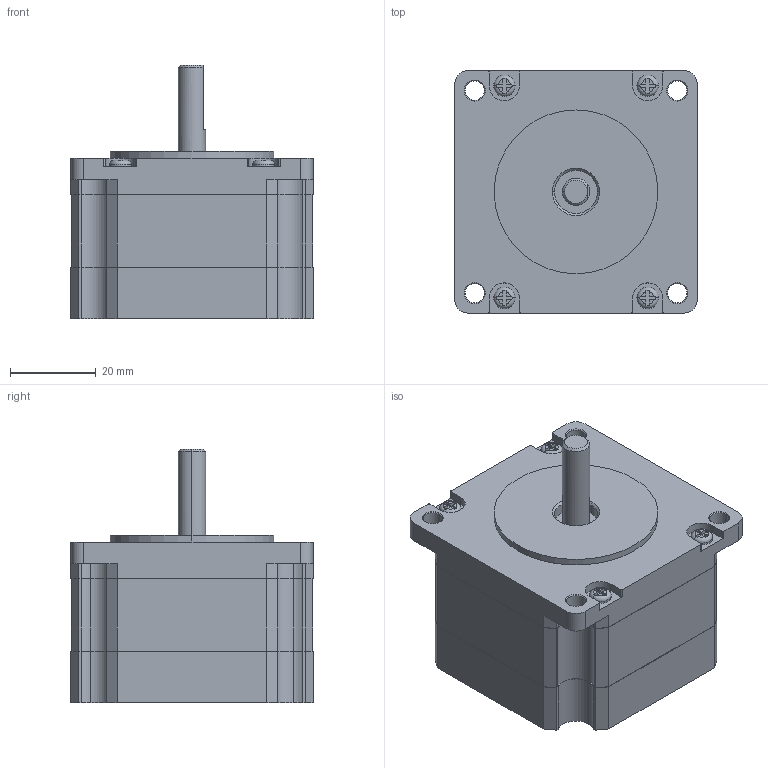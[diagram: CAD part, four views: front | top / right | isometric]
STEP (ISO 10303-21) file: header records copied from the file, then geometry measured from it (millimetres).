
FILE_DESCRIPTION (( 'STEP AP214' ), '1' );
FILE_NAME ('TS3653N1.STEP', '2011-09-15T08:51:44', ( '' ), ( '' ), 'SwSTEP 2.0', 'SolidWorks 2010', '' );
FILE_SCHEMA (( 'AUTOMOTIVE_DESIGN' ));
Length unit declared in the file: millimetre
Products named in the file (1): TS3653N1
Bounding box: 56.4 x 56.4 x 59 mm (x, y, z)
Volume: 110069.6 mm3; surface area: 15612 mm2
Topology: 1 solids, 1 shells, 246 faces, 669 edges, 435 vertices
Faces by surface type: plane 138, cylinder 78, cone 22, torus 8
Entity records: 8191 total; most frequent: CARTESIAN_POINT 1517, ORIENTED_EDGE 1338, DIRECTION 1337, EDGE_CURVE 669, AXIS2_PLACEMENT_3D 455, VERTEX_POINT 435, LINE 427, VECTOR 427
